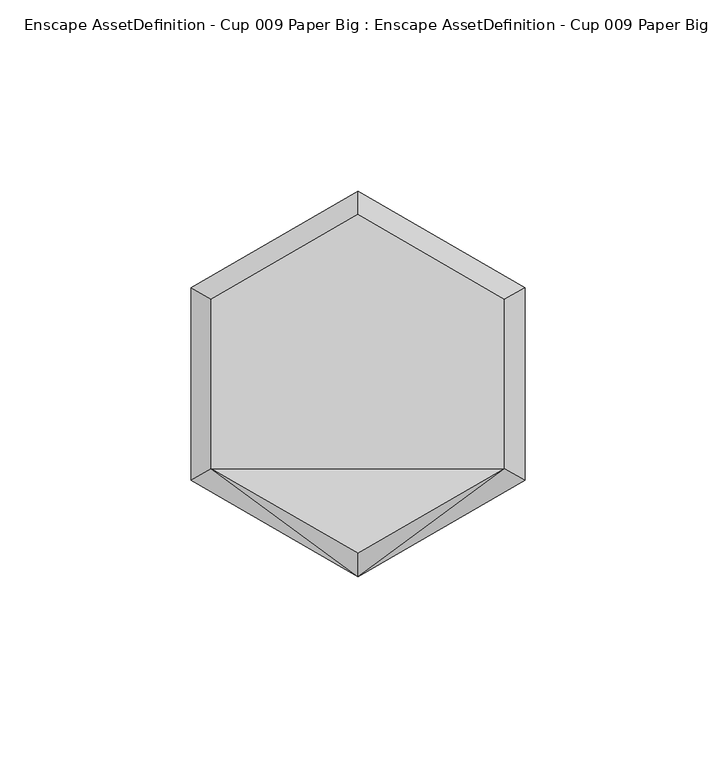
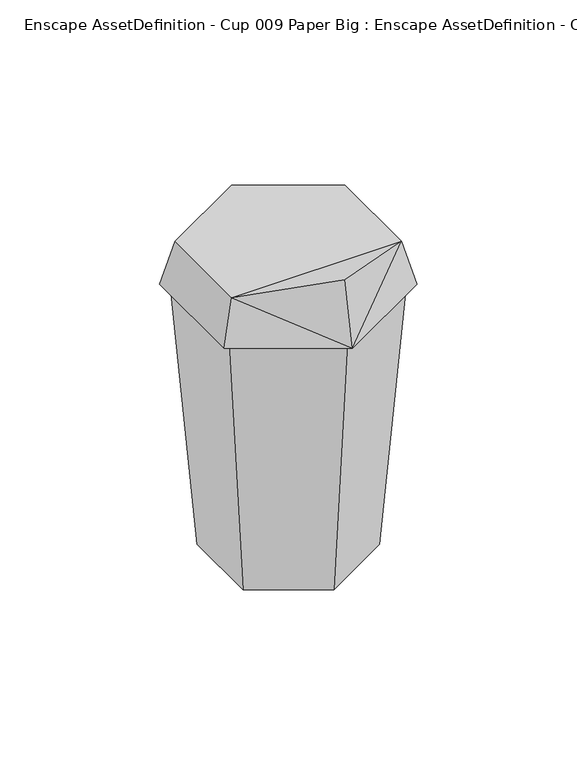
"""IFC4 building model written with IfcOpenShell, lengths in millimetres: geographic element geometry, Enscape AssetDefinition - Cup 009 Paper Big : Enscape AssetDefinition - Cup 009 Paper Big."""

from ifc_helpers import new_model, si_unit, origin, place, context, project, spatial, triangles, source, transform, mapped, element, save


def enscape_assetdefinition_cup_009_paper_big_enscape_90dbc6f4(model_context):
    return source(origin(), model_context, "Body", "Tessellation", [
        triangles([(30.8935994, -17.8364204, 0.0), (40.1083576, 23.1565603, 124.4610985), (30.8935994, 17.8364204, 0.0), (0.0, 0.0, 0.0), (40.1083576, -23.1565603, 124.4610985), (0.0, 35.6728498, 0.0), (0.0, 46.3131206, 124.4610985), (43.6556474, 25.2045844, 124.4610985), (0.0, 50.4092005, 124.4610985), (-30.8935994, 17.8364204, 0.0), (-40.1083485, 23.1565603, 124.4610985), (0.0, -35.6728498, 0.0), (-30.8935903, -17.8364306, 0.0), (0.0, -46.3131206, 124.4610985), (-40.1083485, -23.1565603, 124.4610985), (-43.6556384, -25.2046048, 124.4610985), (-43.6556474, 25.2045934, 124.4610985), (0.0, 44.3346894, 144.9147738), (-38.3949675, -22.167347, 144.9147738), (38.394972, -22.1673379, 144.9147738), (0.0, -44.3346894, 153.3923086), (-38.3949675, 22.1673379, 144.9147738), (38.394972, 22.1673379, 144.9147738), (0.0, -50.4092005, 124.4610985), (43.6556474, -25.2045934, 124.4610985)], [[5, 8, 25], [5, 25, 24], [5, 24, 14], [24, 25, 20], [24, 20, 21], [8, 20, 25], [8, 23, 20], [8, 18, 23], [22, 23, 18], [20, 23, 22], [24, 21, 19], [22, 19, 20], [21, 20, 19], [14, 24, 16], [24, 19, 16], [17, 16, 19], [17, 22, 18], [17, 19, 22], [8, 9, 18], [17, 18, 9], [11, 17, 9], [15, 16, 17], [14, 16, 15], [15, 17, 11], [12, 14, 15], [13, 15, 11], [12, 15, 13], [13, 11, 10], [7, 9, 8], [10, 11, 7], [11, 9, 7], [5, 2, 8], [7, 8, 2], [6, 7, 2], [10, 7, 6], [10, 6, 4], [12, 13, 4], [13, 10, 4], [1, 5, 14], [1, 12, 4], [1, 14, 12], [3, 2, 5], [6, 3, 4], [3, 1, 4], [6, 2, 3], [3, 5, 1]]),
    ])


if __name__ == "__main__":
    model = new_model("IFC4")
    model_context = context("Model", 3, world=origin())
    ifc_project = project(units=[si_unit("LENGTHUNIT", "METRE", prefix="MILLI")], contexts=[model_context])
    site = spatial("IfcSite", under=ifc_project)
    building = spatial("IfcBuilding", under=site)
    placement = place(None, origin())
    enscape_assetdefinition_cup_009_paper_big_enscape_shape = enscape_assetdefinition_cup_009_paper_big_enscape_90dbc6f4(model_context)
    element("IfcGeographicElement", 1, ObjectType="Enscape AssetDefinition - Cup 009 Paper Big : Enscape AssetDefinition - Cup 009 Paper Big", at=placement, inside=building, context=model_context, shape_type="MappedRepresentation", body=[
        mapped(enscape_assetdefinition_cup_009_paper_big_enscape_shape, transform((0.0, 0.0, 0.0), x_axis=(1.0, 0.0, 0.0), y_axis=(0.0, 1.0, 0.0), z_axis=(0.0, 0.0, 1.0))),
    ])
    save(model, "model.ifc")
